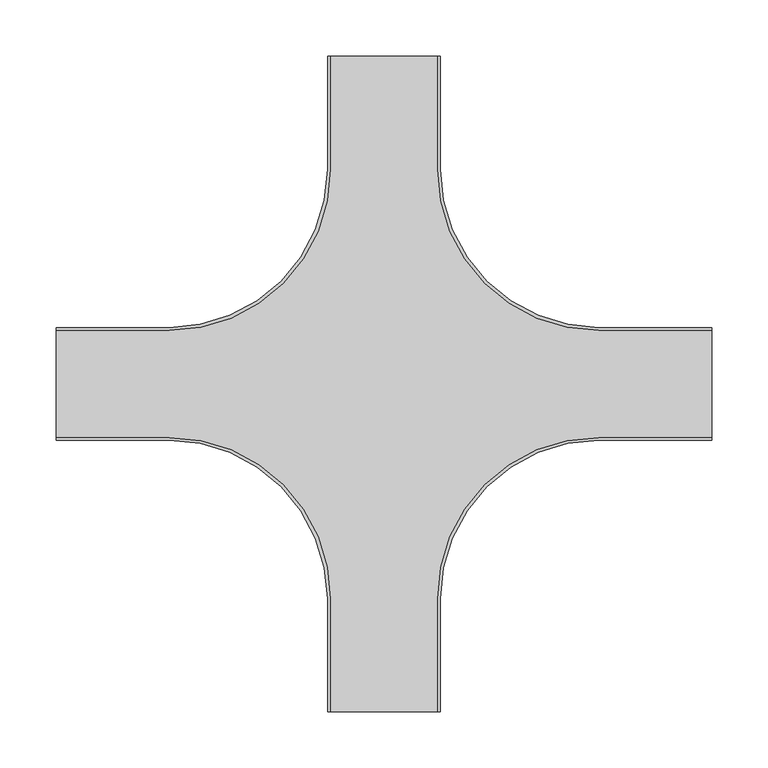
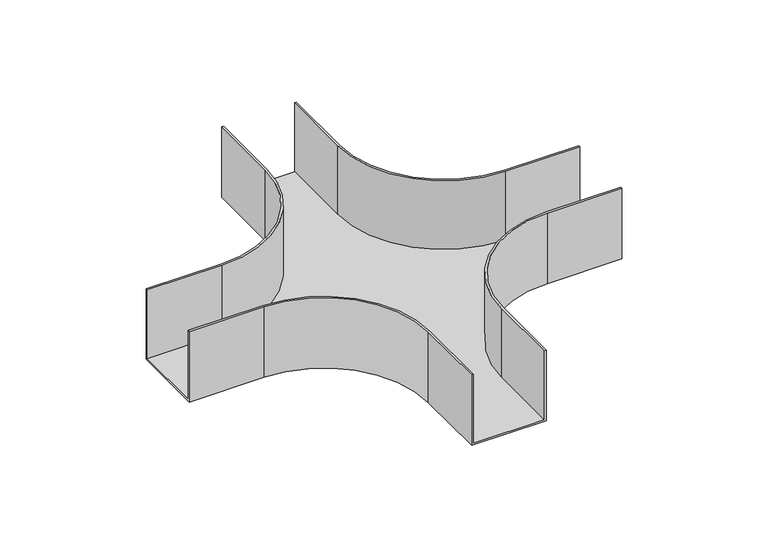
"""IFC4 building model written with IfcOpenShell, lengths in millimetres: cable carrier fitting geometry, BAKS_Cross-section_CZKZ : CZKZCH100."""

from ifc_helpers import new_model, si_unit, frame, origin, place, context, project, spatial, polyline, circle_curve, source, transform, mapped, element, save
from ifc_brep_helpers import plane_surface, cylinder_surface, revolved_surface, advanced_brep


def cable_carrier_fitting_7e9f8960(model_context):
    return source(origin(), model_context, "Body", "AdvancedBrep", [
        advanced_brep(
        [(-50.0, -190.0, 50.0), (-50.0, -290.0, 50.0), (-47.46, -290.0, 50.0), (-47.46, -190.0, 50.0), (-190.0, -47.46, 50.0), (-290.0, -47.46, 50.0), (-290.0, -50.0, 50.0), (-190.0, -50.0, 50.0), (50.0, -190.0, 50.0), (190.0, -50.0, 50.0), (290.0, -50.0, 50.0), (290.0, -47.46, 50.0), (190.0, -47.46, 50.0), (47.46, -190.0, 50.0), (47.46, -290.0, 50.0), (50.0, -290.0, 50.0), (-190.0, 50.0, 50.0), (-290.0, 50.0, 50.0), (-290.0, 47.46, 50.0), (-190.0, 47.46, 50.0), (-47.46, 190.0, 50.0), (-47.46, 290.0, 50.0), (-50.0, 290.0, 50.0), (-50.0, 190.0, 50.0), (47.46, 190.0, 50.0), (190.0, 47.46, 50.0), (290.0, 47.46, 50.0), (290.0, 50.0, 50.0), (190.0, 50.0, 50.0), (50.0, 190.0, 50.0), (50.0, 290.0, 50.0), (47.46, 290.0, 50.0), (-50.0, -190.0, -50.0), (-190.0, -50.0, -50.0), (-290.0, -50.0, -50.0), (-290.0, 50.0, -50.0), (-190.0, 50.0, -50.0), (-50.0, 190.0, -50.0), (-50.0, 290.0, -50.0), (50.0, 290.0, -50.0), (50.0, 190.0, -50.0), (190.0, 50.0, -50.0), (290.0, 50.0, -50.0), (290.0, -50.0, -50.0), (190.0, -50.0, -50.0), (50.0, -190.0, -50.0), (50.0, -290.0, -50.0), (-50.0, -290.0, -50.0), (-50.0, -190.0, -47.46), (47.46, -290.0, -47.46), (-47.46, -290.0, -47.46), (-47.46, -190.0, -47.46), (-190.0, -47.46, -47.46), (-290.0, -47.46, -47.46), (-290.0, 47.46, -47.46), (-190.0, -50.0, -47.46), (50.0, -190.0, -47.46), (190.0, -50.0, -47.46), (290.0, 47.46, -47.46), (290.0, -47.46, -47.46), (190.0, -47.46, -47.46), (47.46, -190.0, -47.46), (190.0, 47.46, -47.46), (47.46, 190.0, -47.46), (47.46, 290.0, -47.46), (-47.46, 290.0, -47.46), (-47.46, 190.0, -47.46), (-190.0, 47.46, -47.46), (-190.0, 50.0, -47.46), (-50.0, 190.0, -47.46), (190.0, 50.0, -47.46), (50.0, 190.0, -47.46)],
        [
            (0, 1),
            (1, 2),
            (2, 3),
            (3, 4, circle_curve(frame((-190.0, -190.0, 50.0), z_axis=(0.0, 0.0, 1.0), x_axis=(1.0, 0.0, 0.0)), 142.54)),
            (4, 5),
            (5, 6),
            (6, 7),
            (7, 0, circle_curve(frame((-190.0, -190.0, 50.0), z_axis=(0.0, 0.0, -1.0), x_axis=(1.0, 0.0, 0.0)), 140.0)),
            (8, 9, circle_curve(frame((190.0, -190.0, 50.0), z_axis=(0.0, 0.0, -1.0), x_axis=(1.0, 0.0, 0.0)), 140.0)),
            (9, 10),
            (10, 11),
            (11, 12),
            (12, 13, circle_curve(frame((190.0, -190.0, 50.0), z_axis=(0.0, 0.0, 1.0), x_axis=(1.0, 0.0, 0.0)), 142.54)),
            (13, 14),
            (14, 15),
            (15, 8),
            (16, 17),
            (17, 18),
            (18, 19),
            (19, 20, circle_curve(frame((-190.0, 190.0, 50.0), z_axis=(0.0, 0.0, 1.0), x_axis=(1.0, 0.0, 0.0)), 142.54)),
            (20, 21),
            (21, 22),
            (22, 23),
            (23, 16, circle_curve(frame((-190.0, 190.0, 50.0), z_axis=(0.0, 0.0, -1.0), x_axis=(1.0, 0.0, 0.0)), 140.0)),
            (24, 25, circle_curve(frame((190.0, 190.0, 50.0), z_axis=(0.0, 0.0, 1.0), x_axis=(1.0, 0.0, 0.0)), 142.54)),
            (25, 26),
            (26, 27),
            (27, 28),
            (28, 29, circle_curve(frame((190.0, 190.0, 50.0), z_axis=(0.0, 0.0, -1.0), x_axis=(1.0, 0.0, 0.0)), 140.0)),
            (29, 30),
            (30, 31),
            (31, 24),
            (32, 33, circle_curve(frame((-190.0, -190.0, -50.0), z_axis=(0.0, 0.0, 1.0), x_axis=(1.0, 0.0, 0.0)), 140.0)),
            (33, 34),
            (34, 35),
            (35, 36),
            (36, 37, circle_curve(frame((-190.0, 190.0, -50.0), z_axis=(0.0, 0.0, 1.0), x_axis=(1.0, 0.0, 0.0)), 140.0)),
            (37, 38),
            (38, 39),
            (39, 40),
            (40, 41, circle_curve(frame((190.0, 190.0, -50.0), z_axis=(0.0, 0.0, 1.0), x_axis=(1.0, 0.0, 0.0)), 140.0)),
            (41, 42),
            (42, 43),
            (43, 44),
            (44, 45, circle_curve(frame((190.0, -190.0, -50.0), z_axis=(0.0, 0.0, 1.0), x_axis=(1.0, 0.0, 0.0)), 140.0)),
            (45, 46),
            (46, 47),
            (47, 32),
            (47, 1),
            (0, 48),
            (48, 32),
            (46, 15),
            (14, 49),
            (49, 50),
            (50, 2),
            (50, 51),
            (51, 3),
            (51, 52, circle_curve(frame((-190.0, -190.0, -47.46), z_axis=(0.0, 0.0, 1.0), x_axis=(1.0, 0.0, 0.0)), 142.54)),
            (52, 4),
            (52, 53),
            (53, 5),
            (53, 54),
            (54, 18),
            (17, 35),
            (34, 6),
            (33, 55),
            (55, 7),
            (8, 56),
            (56, 45),
            (44, 57),
            (57, 9),
            (43, 10),
            (42, 27),
            (26, 58),
            (58, 59),
            (59, 11),
            (59, 60),
            (60, 12),
            (60, 61, circle_curve(frame((190.0, -190.0, -47.46), z_axis=(0.0, 0.0, 1.0), x_axis=(1.0, 0.0, 0.0)), 142.54)),
            (61, 13),
            (61, 49),
            (58, 62),
            (62, 63, circle_curve(frame((190.0, 190.0, -47.46), z_axis=(0.0, 0.0, -1.0), x_axis=(1.0, 0.0, 0.0)), 142.54)),
            (63, 64),
            (64, 65),
            (65, 66),
            (66, 67, circle_curve(frame((-190.0, 190.0, -47.46), z_axis=(0.0, 0.0, -1.0), x_axis=(1.0, 0.0, 0.0)), 142.54)),
            (67, 54),
            (16, 68),
            (68, 36),
            (67, 19),
            (66, 20),
            (65, 21),
            (64, 31),
            (30, 39),
            (38, 22),
            (37, 69),
            (69, 23),
            (24, 63),
            (62, 25),
            (41, 70),
            (70, 28),
            (40, 71),
            (71, 29),
        ],
        [
            plane_surface(frame((-50.0, -190.0, 50.0), z_axis=(0.0, 0.0, 1.0), x_axis=(0.0, -1.0, 0.0))),
            plane_surface(frame((-50.0, -190.0, -50.0), z_axis=(0.0, 0.0, -1.0), x_axis=(0.0, 1.0, 0.0))),
            plane_surface(frame((-50.0, -190.0, 50.0), z_axis=(-1.0, 0.0, 0.0), x_axis=(0.0, 0.0, -1.0))),
            plane_surface(frame((-50.0, -290.0, 50.0), z_axis=(0.0, -1.0, 0.0), x_axis=(0.0, 0.0, -1.0))),
            plane_surface(frame((-47.46, -290.0, 50.0), z_axis=(1.0, 0.0, 0.0), x_axis=(0.0, 0.0, -1.0))),
            cylinder_surface(frame((-190.0, -190.0, -50.0), z_axis=(0.0, 0.0, 1.0), x_axis=(1.0, 0.0, 0.0)), 142.54),
            plane_surface(frame((-190.0, -47.46, 50.0), z_axis=(0.0, 1.0, 0.0), x_axis=(0.0, 0.0, -1.0))),
            plane_surface(frame((-290.0, -47.46, 50.0), z_axis=(-1.0, 0.0, 0.0), x_axis=(0.0, 0.0, -1.0))),
            plane_surface(frame((-290.0, -50.0, 50.0), z_axis=(0.0, -1.0, 0.0), x_axis=(0.0, 0.0, -1.0))),
            revolved_surface(polyline([(-50.0, -190.0, -50.0), (-50.0, -190.0, 50.0)]), (-190.0, -190.0, -50.0), (0.0, 0.0, -1.0)),
            revolved_surface(polyline([(330.0, -190.0, -50.0), (330.0, -190.0, 50.0)]), (190.0, -190.0, 0.0), (0.0, 0.0, -1.0)),
            plane_surface(frame((190.0, -50.0, 50.0), z_axis=(0.0, -1.0, 0.0), x_axis=(0.0, 0.0, -1.0))),
            plane_surface(frame((290.0, -50.0, 50.0), z_axis=(1.0, 0.0, 0.0), x_axis=(0.0, 0.0, -1.0))),
            plane_surface(frame((290.0, -47.46, 50.0), z_axis=(0.0, 1.0, 0.0), x_axis=(0.0, 0.0, -1.0))),
            cylinder_surface(frame((190.0, -190.0, 0.0), z_axis=(0.0, 0.0, 1.0), x_axis=(1.0, 0.0, 0.0)), 142.54),
            plane_surface(frame((47.46, -190.0, 50.0), z_axis=(-1.0, 0.0, 0.0), x_axis=(0.0, 0.0, -1.0))),
            plane_surface(frame((50.0, -290.0, 50.0), z_axis=(1.0, 0.0, 0.0), x_axis=(0.0, 0.0, -1.0))),
            plane_surface(frame((-50.0, -190.0, -47.46), z_axis=(0.0, 0.0, 1.0), x_axis=(0.0, -1.0, 0.0))),
            plane_surface(frame((-190.0, 50.0, 50.0), z_axis=(0.0, 1.0, 0.0), x_axis=(0.0, 0.0, -1.0))),
            plane_surface(frame((-290.0, 47.46, 50.0), z_axis=(0.0, -1.0, 0.0), x_axis=(0.0, 0.0, -1.0))),
            cylinder_surface(frame((-190.0, 190.0, 0.0), z_axis=(0.0, 0.0, 1.0), x_axis=(1.0, 0.0, 0.0)), 142.54),
            plane_surface(frame((-47.46, 190.0, 50.0), z_axis=(1.0, 0.0, 0.0), x_axis=(0.0, 0.0, -1.0))),
            plane_surface(frame((-47.46, 290.0, 50.0), z_axis=(0.0, 1.0, 0.0), x_axis=(0.0, 0.0, -1.0))),
            plane_surface(frame((-50.0, 290.0, 50.0), z_axis=(-1.0, 0.0, 0.0), x_axis=(0.0, 0.0, -1.0))),
            revolved_surface(polyline([(-50.0, 190.0, -50.0), (-50.0, 190.0, 50.0)]), (-190.0, 190.0, 0.0), (0.0, 0.0, -1.0)),
            cylinder_surface(frame((190.0, 190.0, 0.0), z_axis=(0.0, 0.0, 1.0), x_axis=(1.0, 0.0, 0.0)), 142.54),
            plane_surface(frame((190.0, 47.46, 50.0), z_axis=(0.0, -1.0, 0.0), x_axis=(0.0, 0.0, -1.0))),
            plane_surface(frame((290.0, 50.0, 50.0), z_axis=(0.0, 1.0, 0.0), x_axis=(0.0, 0.0, -1.0))),
            revolved_surface(polyline([(330.0, 190.0, -50.0), (330.0, 190.0, 50.0)]), (190.0, 190.0, 0.0), (0.0, 0.0, -1.0)),
            plane_surface(frame((50.0, 190.0, 50.0), z_axis=(1.0, 0.0, 0.0), x_axis=(0.0, 0.0, -1.0))),
            plane_surface(frame((47.46, 290.0, 50.0), z_axis=(-1.0, 0.0, 0.0), x_axis=(0.0, 0.0, -1.0))),
        ],
        [
            (0, [[1, 2, 3, 4, 5, 6, 7, 8]]),
            (0, [[9, 10, 11, 12, 13, 14, 15, 16]]),
            (0, [[17, 18, 19, 20, 21, 22, 23, 24]]),
            (0, [[25, 26, 27, 28, 29, 30, 31, 32]]),
            (1, [[33, 34, 35, 36, 37, 38, 39, 40, 41, 42, 43, 44, 45, 46, 47, 48]]),
            (2, [[49, -1, 50, 51, -48]]),
            (3, [[-2, -49, -47, 52, -15, 53, 54, 55]]),
            (4, [[-3, -55, 56, 57]]),
            (5, [[-4, -57, 58, 59]]),
            (6, [[-5, -59, 60, 61]]),
            (7, [[-6, -61, 62, 63, -18, 64, -35, 65]]),
            (8, [[-7, -65, -34, 66, 67]]),
            (9, [[-8, -67, -66, -33, -51, -50]]),
            (10, [[-9, 68, 69, -45, 70, 71]]),
            (11, [[72, -10, -71, -70, -44]]),
            (12, [[-11, -72, -43, 73, -27, 74, 75, 76]]),
            (13, [[-12, -76, 77, 78]]),
            (14, [[-13, -78, 79, 80]]),
            (15, [[-14, -80, 81, -53]]),
            (16, [[-16, -52, -46, -69, -68]]),
            (17, [[-54, -81, -79, -77, -75, 82, 83, 84, 85, 86, 87, 88, -62, -60, -58, -56]]),
            (18, [[-64, -17, 89, 90, -36]]),
            (19, [[-19, -63, -88, 91]]),
            (20, [[-20, -91, -87, 92]]),
            (21, [[-21, -92, -86, 93]]),
            (22, [[-22, -93, -85, 94, -31, 95, -39, 96]]),
            (23, [[-23, -96, -38, 97, 98]]),
            (24, [[-24, -98, -97, -37, -90, -89]]),
            (25, [[-25, 99, -83, 100]]),
            (26, [[-26, -100, -82, -74]]),
            (27, [[-28, -73, -42, 101, 102]]),
            (28, [[-29, -102, -101, -41, 103, 104]]),
            (29, [[-95, -30, -104, -103, -40]]),
            (30, [[-32, -94, -84, -99]]),
        ],
    ),
    ])


if __name__ == "__main__":
    model = new_model("IFC4")
    model_context = context("Model", 3, world=origin())
    ifc_project = project(units=[si_unit("LENGTHUNIT", "METRE", prefix="MILLI")], contexts=[model_context])
    site = spatial("IfcSite", under=ifc_project)
    building = spatial("IfcBuilding", under=site)
    placement = place(None, origin())
    cable_carrier_fitting_shape = cable_carrier_fitting_7e9f8960(model_context)
    element("IfcCableCarrierFitting", 1, ObjectType="BAKS_Cross-section_CZKZ : CZKZCH100", at=placement, inside=building, context=model_context, shape_type="MappedRepresentation", body=[
        mapped(cable_carrier_fitting_shape, transform((0.0, 0.0, 0.0), x_axis=(1.0, 0.0, 0.0), y_axis=(0.0, 1.0, 0.0), z_axis=(0.0, 0.0, 1.0))),
    ])
    save(model, "model.ifc")
